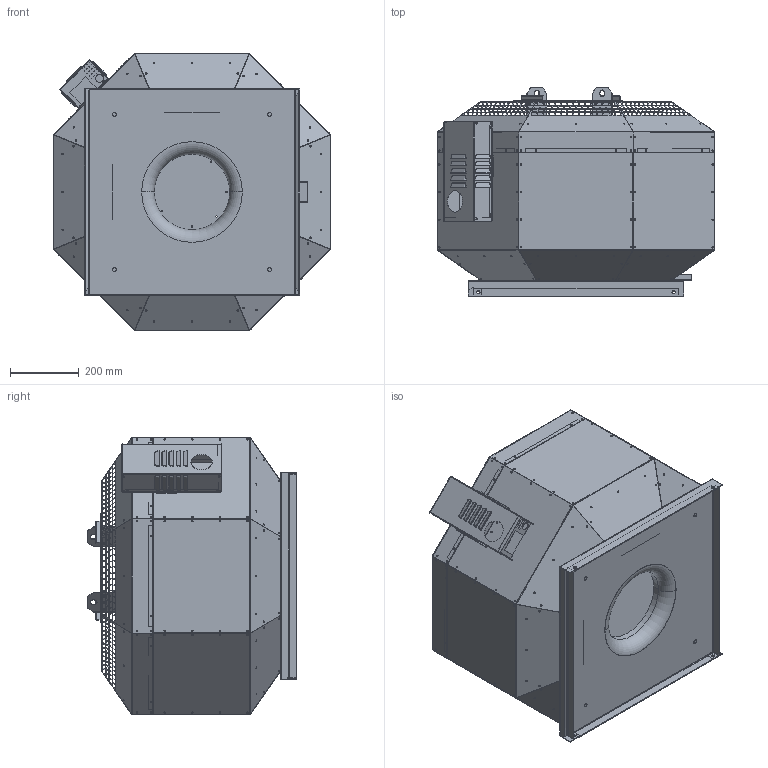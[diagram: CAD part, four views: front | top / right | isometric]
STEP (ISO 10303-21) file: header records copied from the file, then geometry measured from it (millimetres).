
FILE_DESCRIPTION (( 'STEP AP203' ), '1' );
FILE_NAME ('144620-00_DVNI355D4F430_step.step', '2018-08-01T05:47:06', ( '' ), ( '' ), 'SwSTEP 2.0', 'SolidWorks 2017', '' );
FILE_SCHEMA (( 'CONFIG_CONTROL_DESIGN' ));
Products named in the file (2): 144620-00_DVNI355D4F430_step
Bounding box: 804 x 605.01 x 804 mm (x, y, z)
Surface area: 4895553.2 mm2 (no closed solid volume)
Topology: 0 solids, 56 shells, 2130 faces, 13322 edges, 10446 vertices
Faces by surface type: plane 1739, cylinder 329, bspline 60, torus 2
Entity records: 144967 total; most frequent: CARTESIAN_POINT 42148, DIRECTION 18695, ORIENTED_EDGE 18034, EDGE_CURVE 13322, VECTOR 11343, LINE 11343, VERTEX_POINT 10446, EDGE_LOOP 4762
